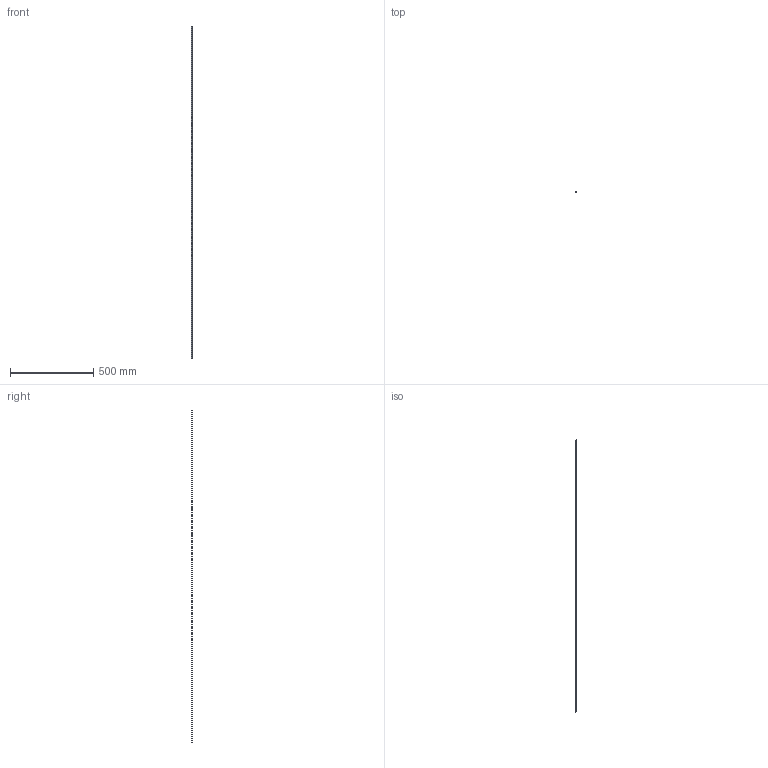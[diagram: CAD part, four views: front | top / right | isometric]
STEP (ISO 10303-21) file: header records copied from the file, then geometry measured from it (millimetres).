
FILE_DESCRIPTION (( 'STEP AP203' ), '1' );
FILE_NAME ('413070_Abdeckprofil 8, schwarz, L=2000mm.step', '2022-06-10T10:12:33', ( '' ), ( '' ), 'SwSTEP 2.0', 'SolidWorks 2021', '' );
FILE_SCHEMA (( 'CONFIG_CONTROL_DESIGN' ));
Length unit declared in the file: millimetre
Products named in the file (1): 413070_Abdeckprofil 8, schwarz, L=2000mm
Bounding box: 9.17 x 5.3 x 2000 mm (x, y, z)
Volume: 34454.1 mm3; surface area: 70884.8 mm2
Topology: 1 solids, 1 shells, 36 faces, 102 edges, 68 vertices
Faces by surface type: cylinder 25, plane 11
Entity records: 1273 total; most frequent: DIRECTION 226, CARTESIAN_POINT 207, ORIENTED_EDGE 204, EDGE_CURVE 102, AXIS2_PLACEMENT_3D 87, VERTEX_POINT 68, LINE 52, VECTOR 52
